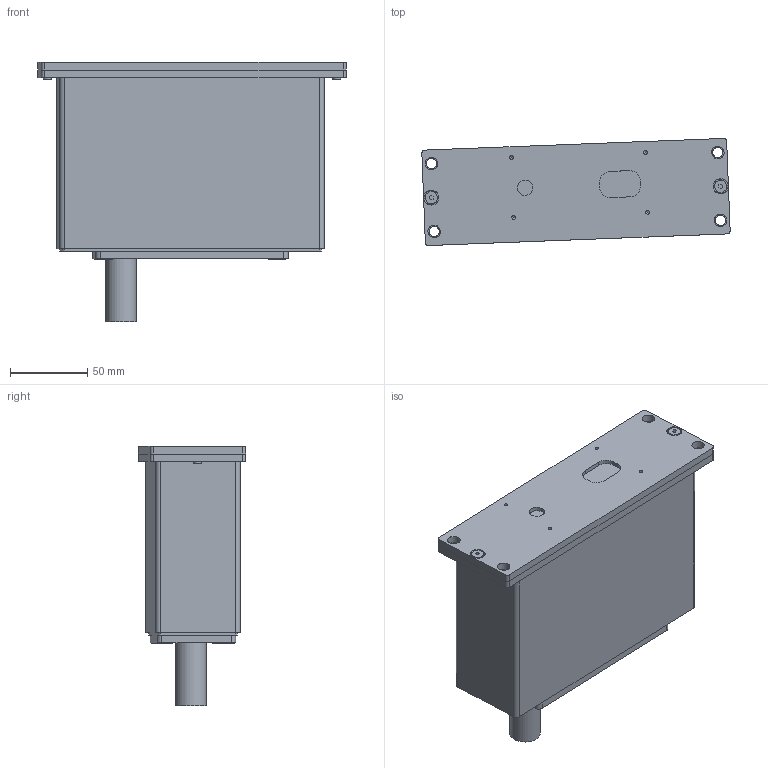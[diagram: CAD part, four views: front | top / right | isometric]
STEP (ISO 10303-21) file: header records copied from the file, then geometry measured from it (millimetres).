
FILE_DESCRIPTION((''),'2;1');
FILE_NAME('Z:\udvikling\Inventor Tegninger\Produktions Tegninger\8030 Kølekasse til Short_Long Range Black-Line\Step File til hjemmeside\DSE\Step File Short_Long Range Cooling house.stp','2017-03-24T03:05:18',('Peter'),(''),'Autodesk Inventor 2008','Autodesk Inventor 2008','');
FILE_SCHEMA(('AUTOMOTIVE_DESIGN { 1 0 10303 214 1 1 1 1 }'));
Length unit declared in the file: millimetre
Products named in the file (11): Assemply Short_Long Range Cooling house II (LevelofDetail1); 8034-01 Bund_Underdel; 8037-01 GlasHolder; 8038-01 Top; 8039-01 Låg; 8040-01 Rør; Window_Clips; Protection glass 13_8mm; 8048-01 BorofloatGlass_32x19x2; Ydersvøb; M5 HEX skrue
Assembly tree (18 placements, depth 2):
  Assemply Short_Long Range Cooling house II (LevelofDetail1)
    8034-01 Bund_Underdel
    8037-01 GlasHolder
    8038-01 Top
    8039-01 Låg
    8040-01 Rør
    Window_Clips  x4
    Protection glass 13_8mm
    8048-01 BorofloatGlass_32x19x2
    Ydersvøb
    M5 HEX skrue  x6
Bounding box: 200.11 x 69.51 x 168.67 mm (x, y, z)
Volume: 760240.9 mm3; surface area: 183738.5 mm2
Topology: 18 solids, 18 shells, 326 faces, 810 edges, 542 vertices
Faces by surface type: plane 182, cylinder 65, bspline 61, cone 12, torus 6
Full cylindrical faces by diameter (mm): 5 x6, 10 x1, 10.2 x1, 13.8 x1, 14.1 x1, 16 x1, 20 x1, 30.2 x1
Entity records: 7753 total; most frequent: CARTESIAN_POINT 1973, DIRECTION 1142, ORIENTED_EDGE 1032, EDGE_CURVE 516, AXIS2_PLACEMENT_3D 421, VERTEX_POINT 376, EDGE_LOOP 360, VECTOR 300
